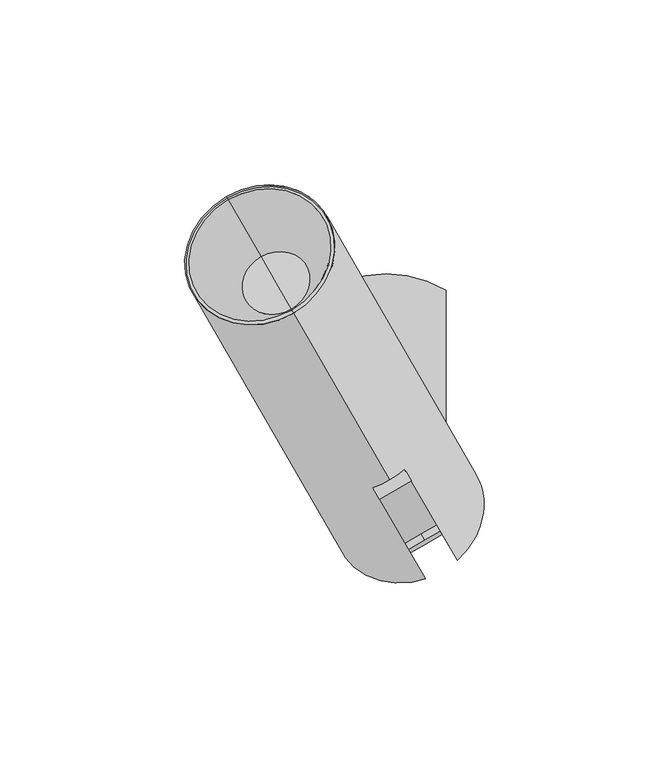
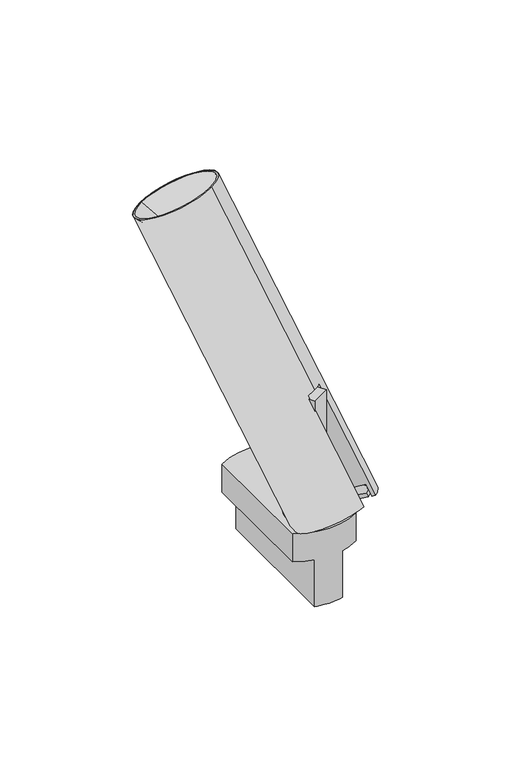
"""IFC4 building model written with IfcOpenShell, lengths in millimetres: light fixture geometry, PIPES T XS : 630lm 7,8W 840 38°."""

import ifcopenshell
import ifcopenshell.guid

model = None  # the IFC model being written
_history = None  # IfcOwnerHistory: only IFC2X3 demands one
_inside = {}  # id of a spatial element -> (the spatial element, [elements in it])
_under = {}  # id of a project, library or spatial element -> (it, [spatial elements below it])
_declared = {}  # id of a project -> (the project, [libraries it declares])
_typed = {}  # id of a type object -> (the type object, [elements of that type])
_made_of = {}  # id of a material, layer set ... -> (it, [elements and type objects made of it])


def new_model(schema):
    """Start an empty IFC model of exactly this schema.

    Asked for "IFC4X3", IfcOpenShell would pick the latest addendum, in which some entities
    have other attributes; the version numbers below select the first issue.
    IFC2X3 requires an IfcOwnerHistory on every rooted entity: one is made here for all.
    """
    global model, _history
    if schema == "IFC4X3":
        model = ifcopenshell.file(schema_version=(4, 3, 0, 0))
    else:
        model = ifcopenshell.file(schema=schema)
    _inside.clear()
    _under.clear()
    _declared.clear()
    _typed.clear()
    _made_of.clear()
    _history = None
    if model.schema == "IFC2X3":
        org = make("IfcOrganization", Name="unknown")
        user = make(
            "IfcPersonAndOrganization",
            ThePerson=make("IfcPerson", FamilyName="unknown"),
            TheOrganization=org,
        )
        app = make(
            "IfcApplication",
            ApplicationDeveloper=org,
            Version="unknown",
            ApplicationFullName="unknown",
            ApplicationIdentifier="unknown",
        )
        _history = make(
            "IfcOwnerHistory",
            OwningUser=user,
            OwningApplication=app,
            ChangeAction="ADDED",
            CreationDate=0,
        )
    return model


def make(cls, **values):
    """One entity of the class cls with the attributes given. An attribute that is None is left unset."""
    return model.create_entity(
        cls, **{name: value for name, value in values.items() if value is not None}
    )


def rooted(cls, **values):
    """An entity with a GlobalId (a new one), such as an element, a storey or a relation."""
    return make(cls, GlobalId=ifcopenshell.guid.new(), OwnerHistory=_history, **values)


def si_unit(unit_type, name, prefix=None):
    """IfcSIUnit, for example si_unit("LENGTHUNIT", "METRE", prefix="MILLI")."""
    return make("IfcSIUnit", UnitType=unit_type, Prefix=prefix, Name=name)


def assignment(units):
    """IfcUnitAssignment: the units of a project."""
    return None if units is None else make("IfcUnitAssignment", Units=units)


def point(xyz):
    """IfcCartesianPoint."""
    return None if xyz is None else make("IfcCartesianPoint", Coordinates=xyz)


def direction(xyz):
    """IfcDirection."""
    return None if xyz is None else make("IfcDirection", DirectionRatios=xyz)


def frame(location, z_axis=None, x_axis=None):
    """IfcAxis2Placement3D, a coordinate frame: its origin and axes. An axis left out is left unset."""
    return make(
        "IfcAxis2Placement3D",
        Location=point(location),
        Axis=direction(z_axis),
        RefDirection=direction(x_axis),
    )


def frame_2d(location, x_axis=None):
    """IfcAxis2Placement2D, a coordinate frame in the plane: its origin and x axis."""
    return make(
        "IfcAxis2Placement2D", Location=point(location), RefDirection=direction(x_axis)
    )


def origin():
    """The frame at (0, 0, 0) with its axes left unset."""
    return frame((0.0, 0.0, 0.0))


def origin_2d():
    """The frame at (0, 0) in the plane with its x axis left unset."""
    return frame_2d((0.0, 0.0))


def place(relative_to, where):
    """IfcLocalPlacement: puts the frame where relative to a parent placement (None: the world)."""
    return make(
        "IfcLocalPlacement", PlacementRelTo=relative_to, RelativePlacement=where
    )


def context(
    kind, dimensions, precision=None, world=None, true_north=None, identifier=None
):
    """IfcGeometricRepresentationContext, for example the 3D "Model" context."""
    return make(
        "IfcGeometricRepresentationContext",
        ContextIdentifier=identifier,
        ContextType=kind,
        CoordinateSpaceDimension=dimensions,
        Precision=precision,
        WorldCoordinateSystem=world,
        TrueNorth=true_north,
    )


def project(units=None, contexts=None):
    """IfcProject with its units and contexts."""
    return rooted(
        "IfcProject",
        Name="project",
        RepresentationContexts=contexts,
        UnitsInContext=assignment(units),
    )


def spatial(cls, under=None, at=None, **own):
    """A site, building, storey or space (cls), placed at a placement, below another one or the project."""
    s = rooted(cls, ObjectPlacement=at, **own)
    if under is not None:
        _under.setdefault(under.id(), (under, []))[1].append(s)
    return s


def polyline(points):
    """IfcPolyline through the points."""
    return make("IfcPolyline", Points=[point(p) for p in points])


def circle_curve(where, radius):
    """IfcCircle in the frame where."""
    return make("IfcCircle", Position=where, Radius=radius)


def trimmed(basis, trim1, trim2, sense, master):
    """IfcTrimmedCurve: the piece of a basis curve between two trims."""
    return make(
        "IfcTrimmedCurve",
        BasisCurve=basis,
        Trim1=trim1,
        Trim2=trim2,
        SenseAgreement=sense,
        MasterRepresentation=master,
    )


def segment(curve, same_sense, transition):
    """IfcCompositeCurveSegment."""
    return make(
        "IfcCompositeCurveSegment",
        Transition=transition,
        SameSense=same_sense,
        ParentCurve=curve,
    )


def composite_curve(segments, self_intersect=None):
    """IfcCompositeCurve: segments joined end to end."""
    return make("IfcCompositeCurve", Segments=segments, SelfIntersect=self_intersect)


def outline(outer, holes=None, kind="AREA"):
    """IfcArbitraryClosedProfileDef: a profile drawn as a closed curve; with holes, ...WithVoids."""
    if holes is None:
        return make("IfcArbitraryClosedProfileDef", ProfileType=kind, OuterCurve=outer)
    return make(
        "IfcArbitraryProfileDefWithVoids",
        ProfileType=kind,
        OuterCurve=outer,
        InnerCurves=holes,
    )


def extrude(swept, where, along, depth):
    """IfcExtrudedAreaSolid: the profile swept, set in the frame where, extruded along a direction by depth."""
    return make(
        "IfcExtrudedAreaSolid",
        SweptArea=swept,
        Position=where,
        ExtrudedDirection=direction(along),
        Depth=depth,
    )


def shape(context_of_items, identifier, shape_type, items):
    """IfcShapeRepresentation: the items that make up one representation, for example the "Body"."""
    return make(
        "IfcShapeRepresentation",
        ContextOfItems=context_of_items,
        RepresentationIdentifier=identifier,
        RepresentationType=shape_type,
        Items=items,
    )


def source(mapping_origin, context_of_items, identifier, shape_type, items):
    """IfcRepresentationMap: a shape defined once, which mapped items show again and again."""
    return make(
        "IfcRepresentationMap",
        MappingOrigin=mapping_origin,
        MappedRepresentation=shape(context_of_items, identifier, shape_type, items),
    )


def transform(
    local_origin,
    x_axis=None,
    y_axis=None,
    z_axis=None,
    scale=None,
    scale2=None,
    scale3=None,
    uniform=True,
):
    """IfcCartesianTransformationOperator3D, or its non-uniform kind. x_axis, y_axis, z_axis: its Axis1, 2, 3."""
    if uniform:
        return make(
            "IfcCartesianTransformationOperator3D",
            Axis1=direction(x_axis),
            Axis2=direction(y_axis),
            LocalOrigin=point(local_origin),
            Scale=scale,
            Axis3=direction(z_axis),
        )
    return make(
        "IfcCartesianTransformationOperator3DnonUniform",
        Axis1=direction(x_axis),
        Axis2=direction(y_axis),
        LocalOrigin=point(local_origin),
        Scale=scale,
        Axis3=direction(z_axis),
        Scale2=scale2,
        Scale3=scale3,
    )


def mapped(mapping_source, mapping_target):
    """IfcMappedItem: shows the shape of a source again, moved by a transform."""
    return make(
        "IfcMappedItem", MappingSource=mapping_source, MappingTarget=mapping_target
    )


def made_of(thing, what):
    """Note that an element or type object is made of a material, layer set ...; save() writes the relation."""
    if what is not None:
        _made_of.setdefault(what.id(), (what, []))[1].append(thing)
    return thing


def element(
    cls,
    number,
    at=None,
    inside=None,
    cuts=None,
    type_object=None,
    material=None,
    context=None,
    identifier="Body",
    shape_type=None,
    held_by="IfcProductDefinitionShape",
    body=None,
    shapes=None,
    **own,
):
    """One element of the class cls, such as IfcWall. Its Tag is "e" and its number.

    at: its placement. inside: the storey or other place that contains it. cuts: it is an
    opening in that element (IfcRelVoidsElement). A single representation is given by context,
    identifier, shape_type and body (its items); several are given by shapes. held_by: the class
    of the entity that holds the representations. save() writes the other relations.
    """
    e = rooted(cls, Tag="e%d" % number, ObjectPlacement=at, **own)
    if body is not None:
        shapes = [shape(context, identifier, shape_type, body)]
    if shapes is not None:
        e.Representation = make(held_by, Representations=shapes)
    if inside is not None:
        _inside.setdefault(inside.id(), (inside, []))[1].append(e)
    if cuts is not None:
        rooted(
            "IfcRelVoidsElement", RelatingBuildingElement=cuts, RelatedOpeningElement=e
        )
    if type_object is not None:
        _typed.setdefault(type_object.id(), (type_object, []))[1].append(e)
    return made_of(e, material)


def aggregate(whole, parts):
    """IfcRelAggregates: a whole, such as a stair, and the parts it consists of."""
    return rooted("IfcRelAggregates", RelatingObject=whole, RelatedObjects=parts)


def save(model, path):
    """Write the relations noted so far, then the file.

    IfcRelAggregates (storeys below a building ...), IfcRelContainedInSpatialStructure (elements
    in a storey), IfcRelDefinesByType, IfcRelAssociatesMaterial and IfcRelDeclares: one each for
    every whole, place, type object, material and project.
    """
    for whole, parts in _under.values():
        aggregate(whole, parts)
    for where, things in _inside.values():
        rooted(
            "IfcRelContainedInSpatialStructure",
            RelatedElements=things,
            RelatingStructure=where,
        )
    for kind, things in _typed.values():
        rooted("IfcRelDefinesByType", RelatedObjects=things, RelatingType=kind)
    for what, things in _made_of.values():
        rooted("IfcRelAssociatesMaterial", RelatedObjects=things, RelatingMaterial=what)
    for by, libraries in _declared.values():
        rooted("IfcRelDeclares", RelatingContext=by, RelatedDefinitions=libraries)
    model.write(path)


def plane_surface(at):
    """IfcPlane: the flat surface through the origin of the frame at, square to its z axis."""
    return make("IfcPlane", Position=at)


def cylinder_surface(at, radius):
    """IfcCylindricalSurface: all points at the distance radius from the z axis of the frame at."""
    return make("IfcCylindricalSurface", Position=at, Radius=radius)


def revolved_surface(curve, axis_point, axis_direction):
    """IfcSurfaceOfRevolution: the curve turned about the line through axis_point along axis_direction."""
    return make(
        "IfcSurfaceOfRevolution",
        SweptCurve=make("IfcArbitraryOpenProfileDef", ProfileType="CURVE", Curve=curve),
        AxisPosition=make("IfcAxis1Placement", Location=point(axis_point), Axis=direction(axis_direction)),
    )


def advanced_brep(points, edges, surfaces, faces):
    """IfcAdvancedBrep: a solid bounded by faces that lie on surfaces and meet in shared edges.

    An edge is (start, end): straight between two places in points (the first is 0);
    or (start, end, curve); or (start, end, curve, False) where it runs against its curve.
    A face is (place in surfaces, loops), or (place, loops, False) where it looks against
    its surface's normal. A loop lists edges by number (the first is 1), with a minus sign
    where the edge is run from its end to its start. The first loop is the outer one.
    """
    corners = [point(p) for p in points]
    vertices = [make("IfcVertexPoint", VertexGeometry=c) for c in corners]
    made = []
    for start, end, *more in edges:
        made.append(
            make(
                "IfcEdgeCurve",
                EdgeStart=vertices[start],
                EdgeEnd=vertices[end],
                EdgeGeometry=more[0] if more else make("IfcPolyline", Points=[corners[start], corners[end]]),
                SameSense=more[1] if len(more) > 1 else True,
            )
        )
    hull = []
    for where, loops, *sense in faces:
        bounds = []
        for j, loop in enumerate(loops):
            ring = [make("IfcOrientedEdge", EdgeElement=made[abs(k) - 1], Orientation=k > 0) for k in loop]
            bounds.append(
                make(
                    "IfcFaceOuterBound" if j == 0 else "IfcFaceBound",
                    Bound=make("IfcEdgeLoop", EdgeList=ring),
                    Orientation=True,
                )
            )
        hull.append(make("IfcAdvancedFace", Bounds=bounds, FaceSurface=surfaces[where], SameSense=sense[0] if sense else True))
    return make("IfcAdvancedBrep", Outer=make("IfcClosedShell", CfsFaces=hull))


def light_fixture_0ee675dd(model_context):
    return source(origin(), model_context, "Body", "SolidModel", [
        extrude(outline(composite_curve([segment(polyline([(39.7303383, 0.0), (39.7303383, -8.0), (36.7303383, -8.0), (36.7303383, -10.0), (-21.31827, -10.0), (-21.31827, -2.0)]), True, "CONTINUOUS"), segment(trimmed(circle_curve(frame_2d((-15.691322, -2.0)), 5.626948), [point((-21.31827, -2.0))], [point((-15.691322, 3.626948))], False, "CARTESIAN"), True, "CONTINUOUS"), segment(polyline([(-15.691322, 3.626948), (-9.8735653, 3.626948)]), True, "CONTINUOUS"), segment(trimmed(circle_curve(frame_2d((-17.7182036, -2.2388678)), 9.7952104), [point((-9.8735653, 3.626948))], [point((-8.1822916, 0.0))], False, "CARTESIAN"), True, "CONTINUOUS"), segment(polyline([(-8.1822916, 0.0), (39.7303383, 0.0)]), True, "CONTINUOUS")], self_intersect=False)), frame((-6.830127, 1.830127, 56.5303383), z_axis=(0.8660254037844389, 0.49999999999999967, 0.0), x_axis=(0.0, 0.0, -1.0)), (0.0, 0.0, 1.0), 10.0),
        extrude(outline(composite_curve([segment(trimmed(circle_curve(origin_2d(), 12.5), [point((10.8253175, 6.25))], [point((-10.8253175, -6.25))], False, "CARTESIAN"), True, "CONTINUOUS"), segment(trimmed(circle_curve(origin_2d(), 12.5), [point((-10.8253175, -6.25))], [point((10.8253175, 6.25))], False, "CARTESIAN"), True, "CONTINUOUS")], self_intersect=False)), frame((0.0, 0.0, 15.0), z_axis=(0.0, 0.0, 1.0), x_axis=(1.0, 0.0, 0.0)), (0.0, 0.0, 1.0), 1.8),
        advanced_brep(
        [(-7.1153658, -15.2862846, -25.0), (-7.1153658, 53.3498174, -25.0), (7.1153658, 53.3498174, -25.0), (7.1153658, -15.2862846, -25.0), (-16.1153658, 49.7317664, 15.0), (-16.1153658, -11.6682336, 15.0), (16.1153658, -11.6682336, 15.0), (16.1153658, 49.7317664, 15.0), (-16.1153658, 49.7317664, 0.0), (-16.1153658, -11.6682336, 0.0), (-7.1153658, -15.2862846, 0.0), (7.1153658, -15.2862846, 0.0), (16.1153658, -11.6682336, 0.0), (16.1153658, 49.7317664, 0.0), (7.1153658, 53.3498174, 0.0), (-7.1153658, 53.3498174, 0.0)],
        [
            (0, 1),
            (1, 2, circle_curve(frame((0.0, 22.6472542, -25.0), z_axis=(0.0, 0.0, -1.0), x_axis=(1.0, 0.0, 0.0)), 31.5162786)),
            (2, 3),
            (3, 0, circle_curve(frame((0.0, 15.4162786, -25.0), z_axis=(0.0, 0.0, -1.0), x_axis=(1.0, 0.0, 0.0)), 31.5162786)),
            (4, 5),
            (5, 6, circle_curve(frame((0.0, 15.4162786, 15.0), z_axis=(0.0, 0.0, 1.0), x_axis=(1.0, 0.0, 0.0)), 31.5162786)),
            (6, 7),
            (7, 4, circle_curve(frame((0.0, 22.6472542, 15.0), z_axis=(0.0, 0.0, 1.0), x_axis=(1.0, 0.0, 0.0)), 31.5162786)),
            (4, 8),
            (8, 9),
            (9, 5),
            (9, 10, circle_curve(frame((0.0, 15.4162786, 0.0), z_axis=(0.0, 0.0, 1.0), x_axis=(1.0, 0.0, 0.0)), 31.5162786)),
            (10, 0),
            (3, 11),
            (11, 12, circle_curve(frame((0.0, 15.4162786, 0.0), z_axis=(0.0, 0.0, 1.0), x_axis=(1.0, 0.0, 0.0)), 31.5162786)),
            (12, 6),
            (12, 13),
            (13, 7),
            (13, 14, circle_curve(frame((0.0, 22.6472542, 0.0), z_axis=(0.0, 0.0, 1.0), x_axis=(1.0, 0.0, 0.0)), 31.5162786)),
            (14, 2),
            (1, 15),
            (15, 8, circle_curve(frame((0.0, 22.6472542, 0.0), z_axis=(0.0, 0.0, 1.0), x_axis=(1.0, 0.0, 0.0)), 31.5162786)),
            (15, 10),
            (11, 14),
        ],
        [
            plane_surface(frame((-16.1153658, -11.6883244, -25.0), z_axis=(0.0, 0.0, -1.0), x_axis=(0.0, 1.0, 0.0))),
            plane_surface(frame((-16.1153658, -11.6883244, 15.0), z_axis=(0.0, 0.0, 1.0), x_axis=(0.0, -1.0, 0.0))),
            plane_surface(frame((-16.1153658, 49.7317664, 15.0), z_axis=(-1.0, 0.0, 0.0), x_axis=(0.0, 0.0, -1.0))),
            cylinder_surface(frame((0.0, 15.4162786, -25.0), z_axis=(0.0, 0.0, 1.0), x_axis=(1.0, 0.0, 0.0)), 31.5162786),
            plane_surface(frame((16.1153658, -11.6682336, 15.0), z_axis=(1.0, 0.0, 0.0), x_axis=(0.0, 0.0, -1.0))),
            cylinder_surface(frame((0.0, 22.6472542, -25.0), z_axis=(0.0, 0.0, 1.0), x_axis=(1.0, 0.0, 0.0)), 31.5162786),
            plane_surface(frame((-7.1153658, 58.6979838, 0.0), z_axis=(0.0, 0.0, -1.0), x_axis=(-1.0, 0.0, 0.0))),
            plane_surface(frame((-7.1153658, -21.3020162, 0.0), z_axis=(-1.0, 0.0, 0.0), x_axis=(0.0, 0.0, -1.0))),
            plane_surface(frame((7.1153658, -11.6883244, 0.0), z_axis=(0.0, 0.0, -1.0), x_axis=(0.0, -1.0, 0.0))),
            plane_surface(frame((7.1153658, 58.6979838, 0.0), z_axis=(1.0, 0.0, 0.0), x_axis=(0.0, 0.0, -1.0))),
        ],
        [
            (0, [[1, 2, 3, 4]]),
            (1, [[5, 6, 7, 8]]),
            (2, [[-5, 9, 10, 11]]),
            (3, [[-6, -11, 12, 13, -4, 14, 15, 16]]),
            (4, [[-7, -16, 17, 18]]),
            (5, [[-8, -18, 19, 20, -2, 21, 22, -9]]),
            (6, [[23, -12, -10, -22]]),
            (7, [[-23, -21, -1, -13]]),
            (8, [[24, -19, -17, -15]]),
            (9, [[-24, -14, -3, -20]]),
        ],
    ),
        advanced_brep(
        [(0.9150635, 8.4150635, 74.830127), (13.6650635, -13.6685843, 30.6628314), (16.8391777, -19.1663114, 34.3279828), (18.3391777, -21.7643876, 29.1318304), (19.2336847, -23.313719, 30.164718), (4.9836847, 1.368005, 79.528166), (-7.7451905, 3.4150635, 74.830127), (-3.6765694, -3.631995, 79.528166), (10.5734306, -28.313719, 30.164718), (9.6789237, -26.7643876, 29.1318304), (8.1789237, -24.1663114, 34.3279828), (5.0048095, -18.6685843, 30.6628314), (9.3349365, -16.1685843, 30.6628314), (0.9150635, -1.5849365, 79.830127), (-25.0849365, 43.4483845, 169.896769), (-43.27147, 74.9483845, 148.896769), (-3.02147, 5.2333395, 9.466679), (-2.1554446, 3.7333395, 10.466679), (-3.6554446, 6.3314157, 15.6628314), (4.5717968, -7.9185843, 25.1628314), (-33.8833302, 58.6876495, 138.375299), (-25.2230762, 43.6876495, 148.375299), (-29.5532032, 51.1876495, 143.375299)],
        [
            (0, 1),
            (1, 2),
            (2, 3),
            (3, 4),
            (4, 5),
            (5, 0),
            (6, 7),
            (7, 8),
            (8, 9),
            (9, 10),
            (10, 11),
            (11, 6),
            (0, 6),
            (11, 12),
            (12, 1),
            (5, 13, circle_curve(frame((-8.1782032, 14.1650635, 69.330127), z_axis=(0.2499999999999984, -0.43301270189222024, -0.8660254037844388), x_axis=(0.43301270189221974, -0.7499999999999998, 0.49999999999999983)), 21.0)),
            (13, 7, circle_curve(frame((-8.1782032, 14.1650635, 69.330127), z_axis=(0.2499999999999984, -0.43301270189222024, -0.8660254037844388), x_axis=(0.43301270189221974, -0.7499999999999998, 0.49999999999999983)), 21.0)),
            (14, 15, circle_curve(frame((-34.1782032, 59.1983845, 159.396769), z_axis=(0.2499999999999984, -0.43301270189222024, -0.8660254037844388), x_axis=(0.43301270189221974, -0.7499999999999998, 0.49999999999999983)), 21.0)),
            (15, 16),
            (16, 8, circle_curve(frame((6.0717968, -10.5166605, 19.966679), z_axis=(-0.2499999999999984, 0.43301270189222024, 0.8660254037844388), x_axis=(0.43301270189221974, -0.7499999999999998, 0.49999999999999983)), 21.0)),
            (13, 14),
            (15, 14, circle_curve(frame((-34.1782032, 59.1983845, 159.396769), z_axis=(0.2499999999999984, -0.43301270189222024, -0.8660254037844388), x_axis=(0.43301270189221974, -0.7499999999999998, 0.49999999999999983)), 21.0)),
            (4, 16, circle_curve(frame((6.0717968, -10.5166605, 19.966679), z_axis=(-0.2499999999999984, 0.43301270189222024, 0.8660254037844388), x_axis=(0.43301270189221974, -0.7499999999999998, 0.49999999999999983)), 21.0)),
            (16, 17),
            (17, 9, circle_curve(frame((6.0717968, -10.5166605, 19.966679), z_axis=(-0.2499999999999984, 0.43301270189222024, 0.8660254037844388), x_axis=(0.43301270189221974, -0.7499999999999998, 0.49999999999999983)), 19.0)),
            (3, 17, circle_curve(frame((6.0717968, -10.5166605, 19.966679), z_axis=(-0.2499999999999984, 0.43301270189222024, 0.8660254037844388), x_axis=(0.43301270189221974, -0.7499999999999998, 0.49999999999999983)), 19.0)),
            (17, 18),
            (18, 10, circle_curve(frame((4.5717968, -7.9185843, 25.1628314), z_axis=(-0.2499999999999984, 0.43301270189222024, 0.8660254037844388), x_axis=(0.43301270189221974, -0.7499999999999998, 0.49999999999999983)), 19.0)),
            (2, 18, circle_curve(frame((4.5717968, -7.9185843, 25.1628314), z_axis=(-0.2499999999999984, 0.43301270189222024, 0.8660254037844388), x_axis=(0.43301270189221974, -0.7499999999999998, 0.49999999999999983)), 19.0)),
            (18, 19),
            (19, 12),
            (20, 21, circle_curve(frame((-29.5532032, 51.1876495, 143.375299), z_axis=(-0.2499999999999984, 0.43301270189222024, 0.8660254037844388), x_axis=(0.43301270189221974, -0.7499999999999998, 0.49999999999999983)), 10.0)),
            (21, 22),
            (22, 20),
            (21, 20, circle_curve(frame((-29.5532032, 51.1876495, 143.375299), z_axis=(-0.2499999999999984, 0.43301270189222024, 0.8660254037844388), x_axis=(0.43301270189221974, -0.7499999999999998, 0.49999999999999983)), 10.0)),
            (14, 21),
            (20, 15),
        ],
        [
            plane_surface(frame((0.9150635, 8.4150635, 74.830127), z_axis=(-0.866025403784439, -0.49999999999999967, 0.0), x_axis=(-0.24999999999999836, 0.43301270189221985, 0.8660254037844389))),
            plane_surface(frame((-7.7451905, 3.4150635, 74.830127), z_axis=(0.866025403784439, 0.49999999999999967, 0.0), x_axis=(0.24999999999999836, -0.43301270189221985, -0.8660254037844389))),
            plane_surface(frame((-7.7451905, 3.4150635, 74.830127), z_axis=(0.43301270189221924, -0.7500000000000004, 0.49999999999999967), x_axis=(0.8660254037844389, 0.49999999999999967, 0.0))),
            plane_surface(frame((0.9150635, -11.5849365, 84.830127), z_axis=(0.24999999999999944, -0.43301270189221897, -0.8660254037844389), x_axis=(0.8660254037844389, 0.49999999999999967, 0.0))),
            cylinder_surface(frame((8.184892, -14.1766488, 12.6467024), z_axis=(0.24999999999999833, -0.43301270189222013, -0.8660254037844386), x_axis=(0.43301270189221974, -0.7499999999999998, 0.49999999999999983)), 21.0),
            plane_surface(frame((6.0717968, -10.5166605, 19.966679), z_axis=(0.2499999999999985, -0.4330127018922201, -0.8660254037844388), x_axis=(0.4330127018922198, -0.7499999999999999, 0.4999999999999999))),
            revolved_surface(polyline([(14.299038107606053, -24.76666050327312, 29.466678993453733), (12.799038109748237, -22.16858429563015, 34.662831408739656)]), (8.184892, -14.1766488, 12.6467024), (0.24999999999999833, -0.43301270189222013, -0.8660254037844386)),
            plane_surface(frame((4.5717968, -7.9185843, 25.1628314), z_axis=(0.2499999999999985, -0.4330127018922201, -0.8660254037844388), x_axis=(0.4330127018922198, -0.7499999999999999, 0.4999999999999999))),
            plane_surface(frame((-29.5532032, 51.1876495, 143.375299), z_axis=(-0.2499999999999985, 0.4330127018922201, 0.8660254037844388), x_axis=(0.4330127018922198, -0.7499999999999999, 0.4999999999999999))),
            revolved_surface(polyline([(-25.2230762, 43.6876495, 148.375299), (-25.0849365, 43.4483845, 169.896769)]), (8.184892, -14.1766488, 12.6467024), (0.24999999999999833, -0.43301270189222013, -0.8660254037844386)),
        ],
        [
            (0, [[1, 2, 3, 4, 5, 6]]),
            (1, [[7, 8, 9, 10, 11, 12]]),
            (2, [[13, -12, 14, 15, -1]]),
            (3, [[-13, -6, 16, 17, -7]]),
            (4, [[18, 19, 20, -8, -17, 21]]),
            (4, [[-19, 22, -21, -16, -5, 23]]),
            (5, [[24, 25, -9, -20]]),
            (5, [[-24, -23, -4, 26]]),
            (6, [[27, 28, -10, -25]]),
            (6, [[-27, -26, -3, 29]]),
            (7, [[30, 31, -14, -11, -28]]),
            (7, [[-30, -29, -2, -15, -31]]),
            (8, [[32, 33, 34]]),
            (8, [[-33, 35, -34]]),
            (9, [[-18, 36, -32, 37]]),
            (9, [[-22, -37, -35, -36]]),
        ],
    ),
        advanced_brep(
        [(14.6650635, -15.4006351, 27.1987298), (15.1650635, -16.2666605, 25.466679), (17.4346675, -20.1977299, 28.087392), (16.9346675, -19.3317045, 29.8194428), (6.5048095, -21.2666605, 25.466679), (6.0048095, -20.4006351, 27.1987298), (8.2744135, -24.3317045, 29.8194428), (8.7744135, -25.1977299, 28.087392), (10.3349365, -17.9006351, 27.1987298), (10.8349365, -18.7666605, 25.466679), (5.5717968, -9.6506351, 21.6987298), (-1.7866667, 3.0945974, 13.2019081), (-1.2866667, 2.228572, 11.4698573), (6.0717968, -10.5166605, 19.966679)],
        [
            (0, 1),
            (1, 2),
            (2, 3),
            (3, 0),
            (4, 5),
            (5, 6),
            (6, 7),
            (7, 4),
            (0, 8),
            (8, 5),
            (4, 9),
            (9, 1),
            (10, 11),
            (11, 6, circle_curve(frame((5.5717968, -9.6506351, 21.6987298), z_axis=(-0.24999999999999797, 0.4330127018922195, 0.8660254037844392), x_axis=(0.43301270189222, -0.7500000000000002, 0.4999999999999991)), 16.9936434)),
            (8, 10),
            (3, 11, circle_curve(frame((5.5717968, -9.6506351, 21.6987298), z_axis=(-0.24999999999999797, 0.4330127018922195, 0.8660254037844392), x_axis=(0.43301270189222, -0.7500000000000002, 0.4999999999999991)), 16.9936434)),
            (11, 12),
            (12, 7, circle_curve(frame((6.0717968, -10.5166605, 19.966679), z_axis=(-0.24999999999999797, 0.4330127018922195, 0.8660254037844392), x_axis=(0.43301270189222, -0.7500000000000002, 0.4999999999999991)), 16.9936434)),
            (2, 12, circle_curve(frame((6.0717968, -10.5166605, 19.966679), z_axis=(-0.24999999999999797, 0.4330127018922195, 0.8660254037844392), x_axis=(0.43301270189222, -0.7500000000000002, 0.4999999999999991)), 16.9936434)),
            (12, 13),
            (13, 9),
        ],
        [
            plane_surface(frame((0.9150635, 8.4150635, 74.830127), z_axis=(-0.866025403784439, -0.49999999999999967, 0.0), x_axis=(-0.24999999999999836, 0.43301270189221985, 0.8660254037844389))),
            plane_surface(frame((-7.7451905, 3.4150635, 74.830127), z_axis=(0.866025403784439, 0.49999999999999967, 0.0), x_axis=(0.24999999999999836, -0.43301270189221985, -0.8660254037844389))),
            plane_surface(frame((-7.7451905, 3.4150635, 74.830127), z_axis=(0.43301270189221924, -0.7500000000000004, 0.49999999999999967), x_axis=(0.8660254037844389, 0.49999999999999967, 0.0))),
            plane_surface(frame((5.5717968, -9.6506351, 21.6987298), z_axis=(-0.2499999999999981, 0.4330127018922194, 0.8660254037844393), x_axis=(0.43301270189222, -0.7500000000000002, 0.4999999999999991))),
            cylinder_surface(frame((-26.940108, 46.6616358, 134.3232716), z_axis=(0.24999999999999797, -0.4330127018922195, -0.8660254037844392), x_axis=(0.43301270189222, -0.7500000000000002, 0.4999999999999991)), 16.9936434),
            plane_surface(frame((6.0717968, -10.5166605, 19.966679), z_axis=(0.2499999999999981, -0.4330127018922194, -0.8660254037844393), x_axis=(0.43301270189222, -0.7500000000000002, 0.4999999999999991))),
        ],
        [
            (0, [[1, 2, 3, 4]]),
            (1, [[5, 6, 7, 8]]),
            (2, [[-1, 9, 10, -5, 11, 12]]),
            (3, [[13, 14, -6, -10, 15]]),
            (3, [[-13, -15, -9, -4, 16]]),
            (4, [[17, 18, -7, -14]]),
            (4, [[-17, -16, -3, 19]]),
            (5, [[20, 21, -11, -8, -18]]),
            (5, [[-20, -19, -2, -12, -21]]),
        ],
    ),
        advanced_brep(
        [(-33.8870222, 58.6940443, 139.5257364), (-25.7193842, 44.5472802, 148.9569125), (-29.8032032, 51.6206622, 144.2413244), (-42.767695, 74.0758206, 149.4784783), (-25.5887115, 44.3209484, 169.3150597), (-43.27147, 74.9483845, 148.896769), (-25.0849365, 43.4483845, 169.896769), (-33.8833302, 58.6876495, 138.375299), (-25.2230762, 43.6876495, 148.375299), (-29.5532032, 51.1876495, 143.375299)],
        [
            (0, 1, circle_curve(frame((-29.8032032, 51.6206622, 144.2413244), z_axis=(-0.2499999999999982, 0.4330127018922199, 0.866025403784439), x_axis=(0.43301270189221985, -0.75, 0.49999999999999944)), 9.431176)),
            (1, 2),
            (2, 0),
            (1, 0, circle_curve(frame((-29.8032032, 51.6206622, 144.2413244), z_axis=(-0.2499999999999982, 0.4330127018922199, 0.866025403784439), x_axis=(0.43301270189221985, -0.75, 0.49999999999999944)), 9.431176)),
            (3, 4, circle_curve(frame((-34.1782032, 59.1983845, 159.396769), z_axis=(-0.2499999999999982, 0.4330127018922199, 0.866025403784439), x_axis=(0.43301270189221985, -0.75, 0.49999999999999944)), 19.8365814)),
            (4, 1),
            (0, 3),
            (4, 3, circle_curve(frame((-34.1782032, 59.1983845, 159.396769), z_axis=(-0.2499999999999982, 0.4330127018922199, 0.866025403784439), x_axis=(0.43301270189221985, -0.75, 0.49999999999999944)), 19.8365814)),
            (5, 6, circle_curve(frame((-34.1782032, 59.1983845, 159.396769), z_axis=(-0.2499999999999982, 0.4330127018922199, 0.866025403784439), x_axis=(0.43301270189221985, -0.75, 0.49999999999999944)), 21.0)),
            (6, 4),
            (3, 5),
            (6, 5, circle_curve(frame((-34.1782032, 59.1983845, 159.396769), z_axis=(-0.2499999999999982, 0.4330127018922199, 0.866025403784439), x_axis=(0.43301270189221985, -0.75, 0.49999999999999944)), 21.0)),
            (7, 8, circle_curve(frame((-29.5532032, 51.1876495, 143.375299), z_axis=(-0.2499999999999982, 0.4330127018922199, 0.866025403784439), x_axis=(0.43301270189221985, -0.75, 0.49999999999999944)), 10.0)),
            (8, 6),
            (5, 7),
            (8, 7, circle_curve(frame((-29.5532032, 51.1876495, 143.375299), z_axis=(-0.2499999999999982, 0.4330127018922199, 0.866025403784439), x_axis=(0.43301270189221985, -0.75, 0.49999999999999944)), 10.0)),
            (9, 8),
            (7, 9),
        ],
        [
            plane_surface(frame((-29.8032032, 51.6206622, 144.2413244), z_axis=(-0.2499999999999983, 0.43301270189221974, 0.866025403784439), x_axis=(0.4330127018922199, -0.75, 0.4999999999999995))),
            revolved_surface(polyline([(-25.7193842, 44.5472802, 148.9569125), (-25.5887115, 44.3209484, 169.3150597)]), (13.184892, -22.8369028, -4.6738057), (0.24999999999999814, -0.4330127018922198, -0.8660254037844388)),
            plane_surface(frame((-34.1782032, 59.1983845, 159.396769), z_axis=(-0.2499999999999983, 0.43301270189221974, 0.866025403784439), x_axis=(0.4330127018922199, -0.75, 0.4999999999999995))),
            revolved_surface(polyline([(-25.0849365, 43.4483845, 169.896769), (-25.2230762, 43.6876495, 148.375299)]), (13.184892, -22.8369028, -4.6738057), (0.24999999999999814, -0.4330127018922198, -0.8660254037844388)),
            plane_surface(frame((-29.5532032, 51.1876495, 143.375299), z_axis=(0.2499999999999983, -0.43301270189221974, -0.866025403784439), x_axis=(0.4330127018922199, -0.75, 0.4999999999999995))),
        ],
        [
            (0, [[1, 2, 3]]),
            (0, [[4, -3, -2]]),
            (1, [[5, 6, -1, 7]]),
            (1, [[8, -7, -4, -6]]),
            (2, [[9, 10, -5, 11]]),
            (2, [[12, -11, -8, -10]]),
            (3, [[13, 14, -9, 15]]),
            (3, [[16, -15, -12, -14]]),
            (4, [[17, -13, 18]]),
            (4, [[-18, -16, -17]]),
        ],
    ),
    ])


if __name__ == "__main__":
    model = new_model("IFC4")
    model_context = context("Model", 3, world=origin())
    ifc_project = project(units=[si_unit("LENGTHUNIT", "METRE", prefix="MILLI")], contexts=[model_context])
    site = spatial("IfcSite", under=ifc_project)
    building = spatial("IfcBuilding", under=site)
    placement = place(None, origin())
    light_fixture_shape = light_fixture_0ee675dd(model_context)
    element("IfcLightFixture", 1, ObjectType="PIPES T XS : 630lm 7,8W 840 38°", at=placement, inside=building, context=model_context, shape_type="MappedRepresentation", body=[
        mapped(light_fixture_shape, transform((0.0, 0.0, 0.0), x_axis=(1.0, 0.0, 0.0), y_axis=(0.0, 1.0, 0.0), z_axis=(0.0, 0.0, 1.0))),
    ])
    save(model, "model.ifc")
